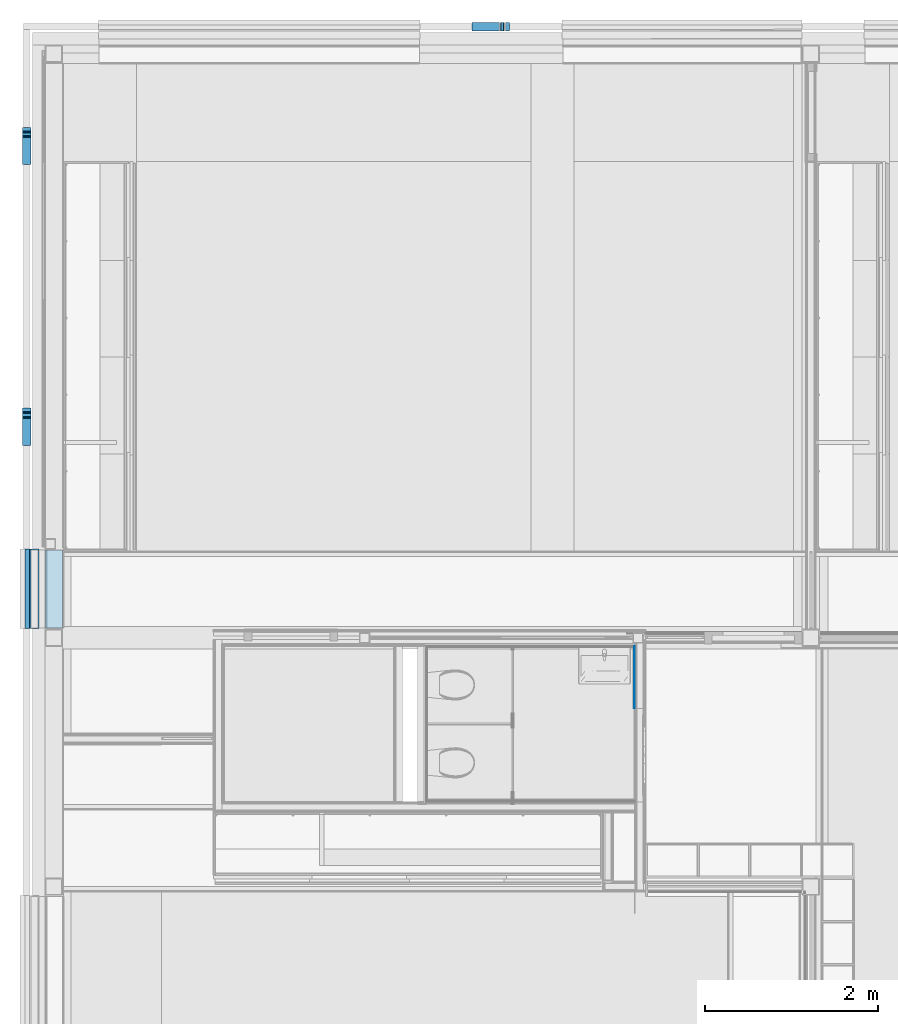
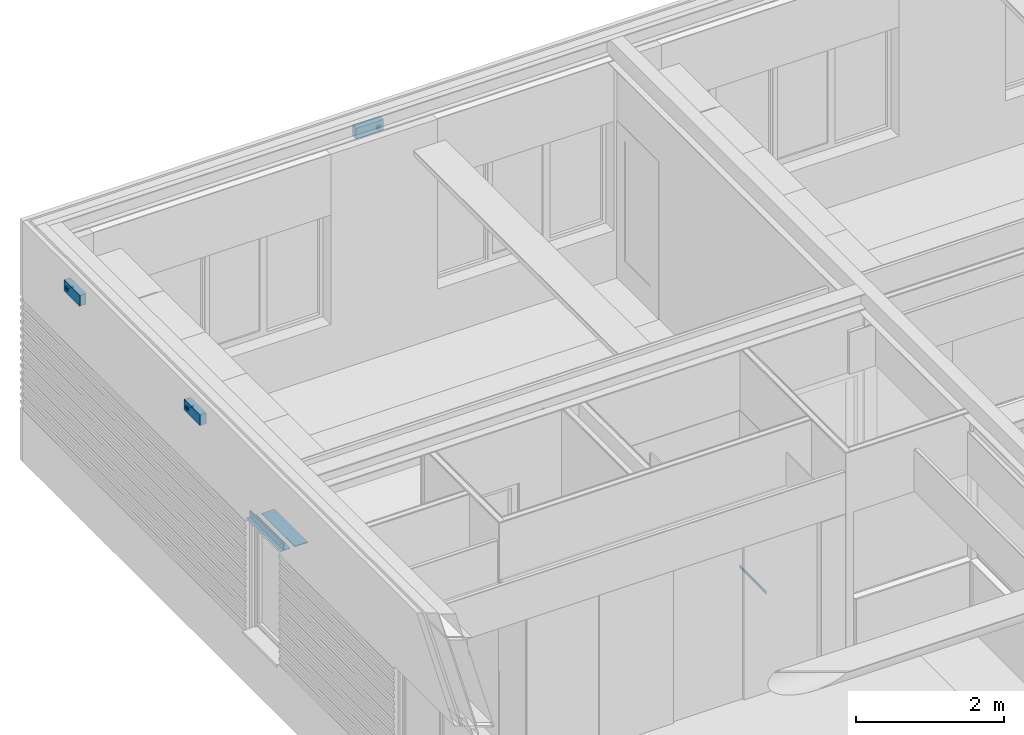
# One storey, part 99 of 137: 12 building element parts, 6 elements without a shape of their own.
"""IFC2X3 building model written with IfcOpenShell, lengths in millimetres."""

from ifc_helpers import new_model, entity, si_unit, converted_unit, derived_unit, money_unit, direction, frame, origin_with_axes, place, context, subcontext, project, spatial, faceted_brep, material, type_object, element, aggregate, save


model = new_model("IFC2X3")

# Units and contexts
model_context = context("Model", 3, precision=0.01, world=origin_with_axes(), true_north=direction((0.0, 1.0)))
body_context = subcontext(model_context, "Body", "Model", "MODEL_VIEW")
ifc_project = project(units=[si_unit("LENGTHUNIT", "METRE", prefix="MILLI"), si_unit("AREAUNIT", "SQUARE_METRE"), si_unit("VOLUMEUNIT", "CUBIC_METRE"), converted_unit("PLANEANGLEUNIT", "DEGREE", entity("IfcPlaneAngleMeasure", 0.0174532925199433), si_unit("PLANEANGLEUNIT", "RADIAN"), dimensions=[0, 0, 0, 0, 0, 0, 0]), money_unit("EUR"), converted_unit("TIMEUNIT", "Year", entity("IfcTimeMeasure", 31556926.0), si_unit("TIMEUNIT", "SECOND"), dimensions=[0, 0, 1, 0, 0, 0, 0]), si_unit("MASSUNIT", "GRAM", prefix="KILO"), si_unit("THERMODYNAMICTEMPERATUREUNIT", "DEGREE_CELSIUS"), si_unit("LUMINOUSINTENSITYUNIT", "LUMEN"), si_unit("ENERGYUNIT", "JOULE", prefix="MEGA"), derived_unit("THERMALCONDUCTANCEUNIT", [(si_unit("POWERUNIT", "WATT"), 1), (si_unit("LENGTHUNIT", "METRE"), -1), (si_unit("THERMODYNAMICTEMPERATUREUNIT", "KELVIN"), -1)]), derived_unit("SPECIFICHEATCAPACITYUNIT", [(si_unit("ENERGYUNIT", "JOULE"), 1), (si_unit("MASSUNIT", "GRAM", prefix="KILO"), -1), (si_unit("THERMODYNAMICTEMPERATUREUNIT", "KELVIN"), -1)]), derived_unit("MASSDENSITYUNIT", [(si_unit("MASSUNIT", "GRAM", prefix="KILO"), 1), (si_unit("VOLUMEUNIT", "CUBIC_METRE"), -1)])], contexts=[model_context])

# Site, building, storey
site_placement = place(None, origin_with_axes())
site = spatial("IfcSite", under=ifc_project, at=site_placement, Name="Site", CompositionType="ELEMENT")
building_placement = place(site_placement, origin_with_axes())
building = spatial("IfcBuilding", under=site, at=building_placement, Name="Naam gebouw", CompositionType="ELEMENT")
storey_placement = place(building_placement, frame((0.0, 0.0, 3960.0), z_axis=(0.0, 0.0, 1.0), x_axis=(1.0, 0.0, 0.0)))
storey = spatial("IfcBuildingStorey", under=building, at=storey_placement, Name="1e verdieping", CompositionType="ELEMENT", Elevation=3960.0)

# Beam, building element parts
beam_type_1 = type_object("IfcBeamType", Name="41 Latei/geveldrager 158 x 112", PredefinedType="BEAM")
beam_1_placement = place(storey_placement, frame((-179.9999999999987, 22429.99984707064, 2610.0), z_axis=(0.0, 0.0, 1.0), x_axis=(1.0, 0.0, 0.0)))
beam_1 = element("IfcBeam", 1, at=beam_1_placement, inside=storey, type_object=beam_type_1, Name="_Regenwaterafvoer-x", ObjectType="BEAM")
ifc_material_1 = material(Name="Metaal - Staal C")
building_element_part_1_placement = place(beam_1_placement, origin_with_axes())
building_element_part_1 = element("IfcBuildingElementPart", 2, at=building_element_part_1_placement, material=ifc_material_1, Name="Metaal - Staal C", context=body_context, shape_type="Brep", body=[
    faceted_brep([(-49.99999999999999, 920.0000000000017, 6.55651533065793e-07), (-49.99999999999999, 920.0000000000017, -3.000000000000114), (-49.99999999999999, 0.0, -3.000000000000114), (-49.99999999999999, 0.0, 6.55651533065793e-07), (-5.960468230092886e-08, 920.0000000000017, 6.55651533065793e-07), (-5.960468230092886e-08, 920.0000000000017, 99.3417707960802), (16.54654975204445, 920.0000000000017, 108.8949262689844), (18.04655007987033, 920.0000000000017, 106.2968498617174), (3.000000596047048, 920.0000000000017, 96.99999988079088), (3.000000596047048, 920.0000000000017, 6.55651533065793e-07), (3.000000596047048, 920.0000000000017, -3.000000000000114), (3.000000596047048, 0.0, -3.000000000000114), (3.000000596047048, 0.0, 6.55651533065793e-07), (3.000000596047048, 0.0, 96.99999988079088), (18.04655007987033, 0.0, 106.2968498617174), (16.54654975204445, 0.0, 108.8949262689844), (-5.960468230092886e-08, 0.0, 99.3417707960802), (-5.960468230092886e-08, 0.0, 6.55651533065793e-07)], [[[0, 1, 2, 3]], [[0, 4, 5, 6, 7, 8, 9, 10, 1]], [[1, 10, 11, 2]], [[3, 2, 11, 12, 13, 14, 15, 16, 17]], [[4, 0, 3, 17]], [[5, 4, 17, 16]], [[6, 5, 16, 15]], [[7, 6, 15, 14]], [[8, 7, 14, 13]], [[9, 8, 13, 12]], [[10, 9, 12, 11]]]),
])
building_element_part_2_placement = place(beam_1_placement, origin_with_axes())
building_element_part_2 = element("IfcBuildingElementPart", 3, at=building_element_part_2_placement, material=ifc_material_1, Name="Metaal - Staal C", context=body_context, shape_type="Brep", body=[
    faceted_brep([(3.000000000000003, 920.0000000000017, -3.000000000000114), (108.0, 920.0000000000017, -3.000000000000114), (108.0, 0.0, -3.000000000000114), (3.000000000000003, 0.0, -3.000000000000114), (3.000000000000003, 920.0000000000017, 0.0), (108.0, 920.0000000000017, 0.0), (108.0, 0.0, 0.0), (3.000000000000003, 0.0, 0.0)], [[[0, 1, 2, 3]], [[0, 4, 5, 1]], [[1, 5, 6, 2]], [[3, 2, 6, 7]], [[4, 0, 3, 7]], [[5, 4, 7, 6]]]),
])
aggregate(beam_1, [building_element_part_1, building_element_part_2])

beam_type_2 = type_object("IfcBeamType", Name="41 Nestkast zwaluw 430 x 175", PredefinedType="BEAM")
beam_2_placement = place(storey_placement, frame((4934.999999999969, 29435.0, 3410.000000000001), z_axis=(0.0, 0.0, 1.0), x_axis=(-1.0, 0.0, 0.0)))
beam_2 = element("IfcBeam", 4, at=beam_2_placement, inside=storey, type_object=beam_type_2, Name="_Regenwaterafvoer-x", ObjectType="BEAM")
ifc_material_2 = material(Name="Beton C")
building_element_part_3_placement = place(beam_2_placement, origin_with_axes())
building_element_part_3 = element("IfcBuildingElementPart", 5, at=building_element_part_3_placement, material=ifc_material_2, Name="Beton C", context=body_context, shape_type="Brep", body=[
    faceted_brep([(-429.9999999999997, 100.0000000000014, 0.0), (0.0, 100.0000000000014, 0.0), (0.0, 0.0, 0.0), (-429.9999999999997, 0.0, 0.0), (-429.9999999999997, 100.0000000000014, 174.9999999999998), (0.0, 100.0000000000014, 174.9999999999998), (-313.0448186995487, 100.0000000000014, 64.69266270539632), (-309.9999999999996, 100.0000000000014, 80.00000000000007), (-313.0448186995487, 100.0000000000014, 95.30733729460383), (-321.7157287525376, 100.0000000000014, 108.2842712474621), (-334.6926627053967, 100.0000000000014, 116.9551813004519), (-349.9999999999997, 100.0000000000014, 120.0000000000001), (-365.3073372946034, 100.0000000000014, 116.9551813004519), (-378.2842712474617, 100.0000000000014, 108.2842712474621), (-386.9551813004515, 100.0000000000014, 95.30733729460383), (-389.9999999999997, 100.0000000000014, 80.00000000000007), (-386.9551813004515, 100.0000000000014, 64.69266270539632), (-378.2842712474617, 100.0000000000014, 51.71572875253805), (-365.3073372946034, 100.0000000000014, 43.04481869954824), (-349.9999999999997, 100.0000000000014, 40.00000000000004), (-334.6926627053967, 100.0000000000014, 43.04481869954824), (-321.7157287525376, 100.0000000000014, 51.71572875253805), (0.0, 0.0, 174.9999999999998), (-429.9999999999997, 0.0, 174.9999999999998), (-313.0448186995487, 0.0, 64.69266270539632), (-321.7157287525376, 0.0, 51.71572875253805), (-334.6926627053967, 0.0, 43.04481869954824), (-349.9999999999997, 0.0, 40.00000000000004), (-365.3073372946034, 0.0, 43.04481869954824), (-378.2842712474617, 0.0, 51.71572875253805), (-386.9551813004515, 0.0, 64.69266270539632), (-389.9999999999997, 0.0, 80.00000000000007), (-386.9551813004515, 0.0, 95.30733729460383), (-378.2842712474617, 0.0, 108.2842712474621), (-365.3073372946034, 0.0, 116.9551813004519), (-349.9999999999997, 0.0, 120.0000000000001), (-334.6926627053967, 0.0, 116.9551813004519), (-321.7157287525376, 0.0, 108.2842712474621), (-313.0448186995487, 0.0, 95.30733729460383), (-309.9999999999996, 0.0, 80.00000000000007)], [[[0, 1, 2, 3]], [[0, 4, 5, 1], [6, 7, 8, 9, 10, 11, 12, 13, 14, 15, 16, 17, 18, 19, 20, 21]], [[1, 5, 22, 2]], [[3, 2, 22, 23], [24, 25, 26, 27, 28, 29, 30, 31, 32, 33, 34, 35, 36, 37, 38, 39]], [[4, 0, 3, 23]], [[5, 4, 23, 22]], [[7, 6, 24, 39]], [[8, 7, 39, 38]], [[9, 8, 38, 37]], [[10, 9, 37, 36]], [[11, 10, 36, 35]], [[12, 11, 35, 34]], [[13, 12, 34, 33]], [[14, 13, 33, 32]], [[15, 14, 32, 31]], [[16, 15, 31, 30]], [[17, 16, 30, 29]], [[18, 17, 29, 28]], [[19, 18, 28, 27]], [[20, 19, 27, 26]], [[21, 20, 26, 25]], [[6, 21, 25, 24]]]),
])
ifc_material_3 = material(Name="Beton gewapend C vloer")
building_element_part_4_placement = place(beam_2_placement, origin_with_axes())
building_element_part_4 = element("IfcBuildingElementPart", 6, at=building_element_part_4_placement, material=ifc_material_3, Name="Beton gewapend C vloer", context=body_context, shape_type="Brep", body=[
    faceted_brep([(-365.0000000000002, 100.0000000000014, 89.99999999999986), (-368.5355339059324, 100.0000000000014, 88.53553390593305), (-368.5355339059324, 0.0, 88.53553390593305), (-365.0000000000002, 0.0, 89.99999999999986), (-334.9999999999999, 100.0000000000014, 89.99999999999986), (-331.4644660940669, 100.0000000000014, 88.53553390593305), (-330.0000000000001, 100.0000000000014, 84.99999999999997), (-330.0000000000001, 100.0000000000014, 75.00000000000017), (-331.4644660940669, 100.0000000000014, 71.46446609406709), (-334.9999999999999, 100.0000000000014, 70.00000000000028), (-365.0000000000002, 100.0000000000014, 70.00000000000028), (-368.5355339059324, 100.0000000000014, 71.46446609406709), (-370.0000000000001, 100.0000000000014, 75.00000000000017), (-370.0000000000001, 100.0000000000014, 84.99999999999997), (-370.0000000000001, 0.0, 84.99999999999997), (-370.0000000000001, 0.0, 75.00000000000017), (-368.5355339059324, 0.0, 71.46446609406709), (-365.0000000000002, 0.0, 70.00000000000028), (-334.9999999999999, 0.0, 70.00000000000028), (-331.4644660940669, 0.0, 71.46446609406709), (-330.0000000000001, 0.0, 75.00000000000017), (-330.0000000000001, 0.0, 84.99999999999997), (-331.4644660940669, 0.0, 88.53553390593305), (-334.9999999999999, 0.0, 89.99999999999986)], [[[0, 1, 2, 3]], [[0, 4, 5, 6, 7, 8, 9, 10, 11, 12, 13, 1]], [[1, 13, 14, 2]], [[3, 2, 14, 15, 16, 17, 18, 19, 20, 21, 22, 23]], [[4, 0, 3, 23]], [[5, 4, 23, 22]], [[6, 5, 22, 21]], [[7, 6, 21, 20]], [[8, 7, 20, 19]], [[9, 8, 19, 18]], [[10, 9, 18, 17]], [[11, 10, 17, 16]], [[12, 11, 16, 15]], [[13, 12, 15, 14]]]),
])
aggregate(beam_2, [building_element_part_3, building_element_part_4])

beam_3_placement = place(storey_placement, frame((-159.9999999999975, 24549.99984707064, 3410.000000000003), z_axis=(0.0, 0.0, 1.0), x_axis=(0.0, 1.0, 0.0)))
beam_3 = element("IfcBeam", 7, at=beam_3_placement, inside=storey, type_object=beam_type_2, Name="_Regenwaterafvoer-x", ObjectType="BEAM")
ifc_material_4 = material(Name="Beton gewapend C")
building_element_part_5_placement = place(beam_3_placement, origin_with_axes())
building_element_part_5 = element("IfcBuildingElementPart", 8, at=building_element_part_5_placement, material=ifc_material_4, Name="Beton gewapend C", context=body_context, shape_type="Brep", body=[
    faceted_brep([(390.0000000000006, 100.0000000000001, 80.00000000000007), (386.9551813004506, 100.0000000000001, 95.30733729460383), (386.9551813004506, 0.0, 95.30733729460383), (390.0000000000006, 0.0, 80.00000000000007), (386.9551813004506, 100.0000000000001, 64.69266270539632), (378.2842712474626, 100.0000000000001, 51.71572875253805), (365.3073372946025, 100.0000000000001, 43.04481869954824), (350.0000000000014, 100.0000000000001, 40.00000000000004), (334.6926627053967, 100.0000000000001, 43.04481869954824), (321.7157287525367, 100.0000000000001, 51.71572875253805), (313.0448186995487, 100.0000000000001, 64.69266270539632), (309.9999999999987, 100.0000000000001, 80.00000000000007), (313.0448186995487, 100.0000000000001, 95.30733729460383), (321.7157287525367, 100.0000000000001, 108.2842712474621), (334.6926627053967, 100.0000000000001, 116.9551813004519), (350.0000000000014, 100.0000000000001, 120.0000000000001), (365.3073372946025, 100.0000000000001, 116.9551813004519), (378.2842712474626, 100.0000000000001, 108.2842712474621), (329.9999999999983, 100.0000000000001, 84.99999999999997), (329.9999999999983, 100.0000000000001, 75.00000000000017), (331.4644660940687, 100.0000000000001, 71.46446609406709), (335.0000000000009, 100.0000000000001, 70.00000000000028), (364.9999999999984, 100.0000000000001, 70.00000000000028), (368.5355339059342, 100.0000000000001, 71.46446609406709), (370.000000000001, 100.0000000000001, 75.00000000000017), (370.000000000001, 100.0000000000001, 84.99999999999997), (368.5355339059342, 100.0000000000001, 88.53553390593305), (364.9999999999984, 100.0000000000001, 89.99999999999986), (335.0000000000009, 100.0000000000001, 89.99999999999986), (331.4644660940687, 100.0000000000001, 88.53553390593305), (378.2842712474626, 0.0, 108.2842712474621), (365.3073372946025, 0.0, 116.9551813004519), (350.0000000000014, 0.0, 120.0000000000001), (334.6926627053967, 0.0, 116.9551813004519), (321.7157287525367, 0.0, 108.2842712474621), (313.0448186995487, 0.0, 95.30733729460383), (309.9999999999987, 0.0, 80.00000000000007), (313.0448186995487, 0.0, 64.69266270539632), (321.7157287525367, 0.0, 51.71572875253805), (334.6926627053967, 0.0, 43.04481869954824), (350.0000000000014, 0.0, 40.00000000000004), (365.3073372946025, 0.0, 43.04481869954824), (378.2842712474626, 0.0, 51.71572875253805), (386.9551813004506, 0.0, 64.69266270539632), (329.9999999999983, 0.0, 84.99999999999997), (331.4644660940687, 0.0, 88.53553390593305), (335.0000000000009, 0.0, 89.99999999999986), (364.9999999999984, 0.0, 89.99999999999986), (368.5355339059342, 0.0, 88.53553390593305), (370.000000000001, 0.0, 84.99999999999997), (370.000000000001, 0.0, 75.00000000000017), (368.5355339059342, 0.0, 71.46446609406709), (364.9999999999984, 0.0, 70.00000000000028), (335.0000000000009, 0.0, 70.00000000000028), (331.4644660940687, 0.0, 71.46446609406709), (329.9999999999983, 0.0, 75.00000000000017)], [[[0, 1, 2, 3]], [[0, 4, 5, 6, 7, 8, 9, 10, 11, 12, 13, 14, 15, 16, 17, 1], [18, 19, 20, 21, 22, 23, 24, 25, 26, 27, 28, 29]], [[1, 17, 30, 2]], [[3, 2, 30, 31, 32, 33, 34, 35, 36, 37, 38, 39, 40, 41, 42, 43], [44, 45, 46, 47, 48, 49, 50, 51, 52, 53, 54, 55]], [[4, 0, 3, 43]], [[5, 4, 43, 42]], [[6, 5, 42, 41]], [[7, 6, 41, 40]], [[8, 7, 40, 39]], [[9, 8, 39, 38]], [[10, 9, 38, 37]], [[11, 10, 37, 36]], [[12, 11, 36, 35]], [[13, 12, 35, 34]], [[14, 13, 34, 33]], [[15, 14, 33, 32]], [[16, 15, 32, 31]], [[17, 16, 31, 30]], [[19, 18, 44, 55]], [[20, 19, 55, 54]], [[21, 20, 54, 53]], [[22, 21, 53, 52]], [[23, 22, 52, 51]], [[24, 23, 51, 50]], [[25, 24, 50, 49]], [[26, 25, 49, 48]], [[27, 26, 48, 47]], [[28, 27, 47, 46]], [[29, 28, 46, 45]], [[18, 29, 45, 44]]]),
])
building_element_part_6_placement = place(beam_3_placement, origin_with_axes())
building_element_part_6 = element("IfcBuildingElementPart", 9, at=building_element_part_6_placement, material=ifc_material_3, Name="Beton gewapend C vloer", context=body_context, shape_type="Brep", body=[
    faceted_brep([(335.0000000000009, 100.0000000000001, 89.99999999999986), (331.4644660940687, 100.0000000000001, 88.53553390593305), (331.4644660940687, 0.0, 88.53553390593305), (335.0000000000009, 0.0, 89.99999999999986), (364.9999999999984, 100.0000000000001, 89.99999999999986), (368.5355339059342, 100.0000000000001, 88.53553390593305), (370.000000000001, 100.0000000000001, 84.99999999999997), (370.000000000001, 100.0000000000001, 75.00000000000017), (368.5355339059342, 100.0000000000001, 71.46446609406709), (364.9999999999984, 100.0000000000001, 70.00000000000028), (335.0000000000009, 100.0000000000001, 70.00000000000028), (331.4644660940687, 100.0000000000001, 71.46446609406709), (329.9999999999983, 100.0000000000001, 75.00000000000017), (329.9999999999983, 100.0000000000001, 84.99999999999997), (329.9999999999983, 0.0, 84.99999999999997), (329.9999999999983, 0.0, 75.00000000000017), (331.4644660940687, 0.0, 71.46446609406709), (335.0000000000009, 0.0, 70.00000000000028), (364.9999999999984, 0.0, 70.00000000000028), (368.5355339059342, 0.0, 71.46446609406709), (370.000000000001, 0.0, 75.00000000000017), (370.000000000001, 0.0, 84.99999999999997), (368.5355339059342, 0.0, 88.53553390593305), (364.9999999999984, 0.0, 89.99999999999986)], [[[0, 1, 2, 3]], [[0, 4, 5, 6, 7, 8, 9, 10, 11, 12, 13, 1]], [[1, 13, 14, 2]], [[3, 2, 14, 15, 16, 17, 18, 19, 20, 21, 22, 23]], [[4, 0, 3, 23]], [[5, 4, 23, 22]], [[6, 5, 22, 21]], [[7, 6, 21, 20]], [[8, 7, 20, 19]], [[9, 8, 19, 18]], [[10, 9, 18, 17]], [[11, 10, 17, 16]], [[12, 11, 16, 15]], [[13, 12, 15, 14]]]),
])
building_element_part_7_placement = place(beam_3_placement, origin_with_axes())
building_element_part_7 = element("IfcBuildingElementPart", 10, at=building_element_part_7_placement, material=ifc_material_2, Name="Beton C", context=body_context, shape_type="Brep", body=[
    faceted_brep([(429.9999999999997, 100.0000000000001, 174.9999999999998), (0.0, 100.0000000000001, 174.9999999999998), (0.0, 0.0, 174.9999999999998), (429.9999999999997, 0.0, 174.9999999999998), (429.9999999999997, 100.0000000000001, 0.0), (0.0, 100.0000000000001, 0.0), (309.9999999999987, 100.0000000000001, 80.00000000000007), (313.0448186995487, 100.0000000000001, 64.69266270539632), (321.7157287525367, 100.0000000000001, 51.71572875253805), (334.6926627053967, 100.0000000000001, 43.04481869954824), (350.0000000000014, 100.0000000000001, 40.00000000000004), (365.3073372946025, 100.0000000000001, 43.04481869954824), (378.2842712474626, 100.0000000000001, 51.71572875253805), (386.9551813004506, 100.0000000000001, 64.69266270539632), (390.0000000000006, 100.0000000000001, 80.00000000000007), (386.9551813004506, 100.0000000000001, 95.30733729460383), (378.2842712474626, 100.0000000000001, 108.2842712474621), (365.3073372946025, 100.0000000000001, 116.9551813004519), (350.0000000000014, 100.0000000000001, 120.0000000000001), (334.6926627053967, 100.0000000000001, 116.9551813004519), (321.7157287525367, 100.0000000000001, 108.2842712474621), (313.0448186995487, 100.0000000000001, 95.30733729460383), (0.0, 0.0, 0.0), (429.9999999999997, 0.0, 0.0), (309.9999999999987, 0.0, 80.00000000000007), (313.0448186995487, 0.0, 95.30733729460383), (321.7157287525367, 0.0, 108.2842712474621), (334.6926627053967, 0.0, 116.9551813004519), (350.0000000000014, 0.0, 120.0000000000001), (365.3073372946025, 0.0, 116.9551813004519), (378.2842712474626, 0.0, 108.2842712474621), (386.9551813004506, 0.0, 95.30733729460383), (390.0000000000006, 0.0, 80.00000000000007), (386.9551813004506, 0.0, 64.69266270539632), (378.2842712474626, 0.0, 51.71572875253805), (365.3073372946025, 0.0, 43.04481869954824), (350.0000000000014, 0.0, 40.00000000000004), (334.6926627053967, 0.0, 43.04481869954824), (321.7157287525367, 0.0, 51.71572875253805), (313.0448186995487, 0.0, 64.69266270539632)], [[[0, 1, 2, 3]], [[0, 4, 5, 1], [6, 7, 8, 9, 10, 11, 12, 13, 14, 15, 16, 17, 18, 19, 20, 21]], [[1, 5, 22, 2]], [[3, 2, 22, 23], [24, 25, 26, 27, 28, 29, 30, 31, 32, 33, 34, 35, 36, 37, 38, 39]], [[4, 0, 3, 23]], [[5, 4, 23, 22]], [[7, 6, 24, 39]], [[8, 7, 39, 38]], [[9, 8, 38, 37]], [[10, 9, 37, 36]], [[11, 10, 36, 35]], [[12, 11, 35, 34]], [[13, 12, 34, 33]], [[14, 13, 33, 32]], [[15, 14, 32, 31]], [[16, 15, 31, 30]], [[17, 16, 30, 29]], [[18, 17, 29, 28]], [[19, 18, 28, 27]], [[20, 19, 27, 26]], [[21, 20, 26, 25]], [[6, 21, 25, 24]]]),
])
aggregate(beam_3, [building_element_part_5, building_element_part_6, building_element_part_7])

beam_4_placement = place(storey_placement, frame((-159.9999999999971, 27795.0, 3410.000000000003), z_axis=(0.0, 0.0, 1.0), x_axis=(0.0, 1.0, 0.0)))
beam_4 = element("IfcBeam", 11, at=beam_4_placement, inside=storey, type_object=beam_type_2, Name="_Regenwaterafvoer-x", ObjectType="BEAM")
building_element_part_8_placement = place(beam_4_placement, origin_with_axes())
building_element_part_8 = element("IfcBuildingElementPart", 12, at=building_element_part_8_placement, material=ifc_material_2, Name="Beton C", context=body_context, shape_type="Brep", body=[
    faceted_brep([(429.9999999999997, 100.0, 174.9999999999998), (0.0, 100.0, 174.9999999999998), (0.0, 0.0, 174.9999999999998), (429.9999999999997, 0.0, 174.9999999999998), (429.9999999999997, 100.0, 0.0), (0.0, 100.0, 0.0), (309.9999999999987, 100.0, 80.00000000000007), (313.0448186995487, 100.0, 64.69266270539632), (321.7157287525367, 100.0, 51.71572875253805), (334.6926627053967, 100.0, 43.04481869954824), (350.0000000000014, 100.0, 40.00000000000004), (365.3073372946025, 100.0, 43.04481869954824), (378.2842712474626, 100.0, 51.71572875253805), (386.9551813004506, 99.99999999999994, 64.69266270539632), (390.0000000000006, 99.99999999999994, 80.00000000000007), (386.9551813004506, 99.99999999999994, 95.30733729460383), (378.2842712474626, 100.0, 108.2842712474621), (365.3073372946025, 100.0, 116.9551813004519), (350.0000000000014, 100.0, 120.0000000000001), (334.6926627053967, 100.0, 116.9551813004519), (321.7157287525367, 100.0, 108.2842712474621), (313.0448186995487, 100.0, 95.30733729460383), (0.0, 0.0, 0.0), (429.9999999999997, 0.0, 0.0), (309.9999999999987, 0.0, 80.00000000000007), (313.0448186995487, 0.0, 95.30733729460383), (321.7157287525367, 0.0, 108.2842712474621), (334.6926627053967, 0.0, 116.9551813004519), (350.0000000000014, 0.0, 120.0000000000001), (365.3073372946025, 0.0, 116.9551813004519), (378.2842712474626, 0.0, 108.2842712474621), (386.9551813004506, 0.0, 95.30733729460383), (390.0000000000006, 0.0, 80.00000000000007), (386.9551813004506, 0.0, 64.69266270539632), (378.2842712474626, 0.0, 51.71572875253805), (365.3073372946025, 0.0, 43.04481869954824), (350.0000000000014, 0.0, 40.00000000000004), (334.6926627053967, 0.0, 43.04481869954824), (321.7157287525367, 0.0, 51.71572875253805), (313.0448186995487, 0.0, 64.69266270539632)], [[[0, 1, 2, 3]], [[0, 4, 5, 1], [6, 7, 8, 9, 10, 11, 12, 13, 14, 15, 16, 17, 18, 19, 20, 21]], [[1, 5, 22, 2]], [[3, 2, 22, 23], [24, 25, 26, 27, 28, 29, 30, 31, 32, 33, 34, 35, 36, 37, 38, 39]], [[4, 0, 3, 23]], [[5, 4, 23, 22]], [[7, 6, 24, 39]], [[8, 7, 39, 38]], [[9, 8, 38, 37]], [[10, 9, 37, 36]], [[11, 10, 36, 35]], [[12, 11, 35, 34]], [[13, 12, 34, 33]], [[14, 13, 33, 32]], [[15, 14, 32, 31]], [[16, 15, 31, 30]], [[17, 16, 30, 29]], [[18, 17, 29, 28]], [[19, 18, 28, 27]], [[20, 19, 27, 26]], [[21, 20, 26, 25]], [[6, 21, 25, 24]]]),
])
building_element_part_9_placement = place(beam_4_placement, origin_with_axes())
building_element_part_9 = element("IfcBuildingElementPart", 13, at=building_element_part_9_placement, material=ifc_material_4, Name="Beton gewapend C", context=body_context, shape_type="Brep", body=[
    faceted_brep([(390.0000000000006, 99.99999999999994, 80.00000000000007), (386.9551813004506, 99.99999999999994, 95.30733729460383), (386.9551813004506, 0.0, 95.30733729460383), (390.0000000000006, 0.0, 80.00000000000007), (386.9551813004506, 99.99999999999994, 64.69266270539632), (378.2842712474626, 100.0, 51.71572875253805), (365.3073372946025, 100.0, 43.04481869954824), (350.0000000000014, 100.0, 40.00000000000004), (334.6926627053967, 100.0, 43.04481869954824), (321.7157287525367, 100.0, 51.71572875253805), (313.0448186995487, 100.0, 64.69266270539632), (309.9999999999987, 100.0, 80.00000000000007), (313.0448186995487, 100.0, 95.30733729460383), (321.7157287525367, 100.0, 108.2842712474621), (334.6926627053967, 100.0, 116.9551813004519), (350.0000000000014, 100.0, 120.0000000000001), (365.3073372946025, 100.0, 116.9551813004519), (378.2842712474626, 100.0, 108.2842712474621), (329.9999999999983, 100.0, 84.99999999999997), (329.9999999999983, 100.0, 75.00000000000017), (331.4644660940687, 100.0, 71.46446609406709), (335.0000000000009, 100.0, 70.00000000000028), (364.9999999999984, 99.99999999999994, 70.00000000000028), (368.5355339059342, 100.0, 71.46446609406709), (370.000000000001, 100.0, 75.00000000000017), (370.000000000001, 100.0, 84.99999999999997), (368.5355339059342, 100.0, 88.53553390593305), (364.9999999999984, 99.99999999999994, 89.99999999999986), (335.0000000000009, 100.0, 89.99999999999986), (331.4644660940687, 100.0, 88.53553390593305), (378.2842712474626, 0.0, 108.2842712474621), (365.3073372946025, 0.0, 116.9551813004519), (350.0000000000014, 0.0, 120.0000000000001), (334.6926627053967, 0.0, 116.9551813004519), (321.7157287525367, 0.0, 108.2842712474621), (313.0448186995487, 0.0, 95.30733729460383), (309.9999999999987, 0.0, 80.00000000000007), (313.0448186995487, 0.0, 64.69266270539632), (321.7157287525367, 0.0, 51.71572875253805), (334.6926627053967, 0.0, 43.04481869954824), (350.0000000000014, 0.0, 40.00000000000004), (365.3073372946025, 0.0, 43.04481869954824), (378.2842712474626, 0.0, 51.71572875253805), (386.9551813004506, 0.0, 64.69266270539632), (329.9999999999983, 0.0, 84.99999999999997), (331.4644660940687, 0.0, 88.53553390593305), (335.0000000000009, 0.0, 89.99999999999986), (364.9999999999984, 0.0, 89.99999999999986), (368.5355339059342, 0.0, 88.53553390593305), (370.000000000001, 0.0, 84.99999999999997), (370.000000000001, 0.0, 75.00000000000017), (368.5355339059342, 0.0, 71.46446609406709), (364.9999999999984, 0.0, 70.00000000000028), (335.0000000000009, 0.0, 70.00000000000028), (331.4644660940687, 0.0, 71.46446609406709), (329.9999999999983, 0.0, 75.00000000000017)], [[[0, 1, 2, 3]], [[0, 4, 5, 6, 7, 8, 9, 10, 11, 12, 13, 14, 15, 16, 17, 1], [18, 19, 20, 21, 22, 23, 24, 25, 26, 27, 28, 29]], [[1, 17, 30, 2]], [[3, 2, 30, 31, 32, 33, 34, 35, 36, 37, 38, 39, 40, 41, 42, 43], [44, 45, 46, 47, 48, 49, 50, 51, 52, 53, 54, 55]], [[4, 0, 3, 43]], [[5, 4, 43, 42]], [[6, 5, 42, 41]], [[7, 6, 41, 40]], [[8, 7, 40, 39]], [[9, 8, 39, 38]], [[10, 9, 38, 37]], [[11, 10, 37, 36]], [[12, 11, 36, 35]], [[13, 12, 35, 34]], [[14, 13, 34, 33]], [[15, 14, 33, 32]], [[16, 15, 32, 31]], [[17, 16, 31, 30]], [[19, 18, 44, 55]], [[20, 19, 55, 54]], [[21, 20, 54, 53]], [[22, 21, 53, 52]], [[23, 22, 52, 51]], [[24, 23, 51, 50]], [[25, 24, 50, 49]], [[26, 25, 49, 48]], [[27, 26, 48, 47]], [[28, 27, 47, 46]], [[29, 28, 46, 45]], [[18, 29, 45, 44]]]),
])
building_element_part_10_placement = place(beam_4_placement, origin_with_axes())
building_element_part_10 = element("IfcBuildingElementPart", 14, at=building_element_part_10_placement, material=ifc_material_3, Name="Beton gewapend C vloer", context=body_context, shape_type="Brep", body=[
    faceted_brep([(335.0000000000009, 100.0, 89.99999999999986), (331.4644660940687, 100.0, 88.53553390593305), (331.4644660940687, 0.0, 88.53553390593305), (335.0000000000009, 0.0, 89.99999999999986), (364.9999999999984, 99.99999999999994, 89.99999999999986), (368.5355339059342, 100.0, 88.53553390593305), (370.000000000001, 100.0, 84.99999999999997), (370.000000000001, 100.0, 75.00000000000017), (368.5355339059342, 100.0, 71.46446609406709), (364.9999999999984, 99.99999999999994, 70.00000000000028), (335.0000000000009, 100.0, 70.00000000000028), (331.4644660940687, 100.0, 71.46446609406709), (329.9999999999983, 100.0, 75.00000000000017), (329.9999999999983, 100.0, 84.99999999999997), (329.9999999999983, 0.0, 84.99999999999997), (329.9999999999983, 0.0, 75.00000000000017), (331.4644660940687, 0.0, 71.46446609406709), (335.0000000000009, 0.0, 70.00000000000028), (364.9999999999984, 0.0, 70.00000000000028), (368.5355339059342, 0.0, 71.46446609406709), (370.000000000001, 0.0, 75.00000000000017), (370.000000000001, 0.0, 84.99999999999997), (368.5355339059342, 0.0, 88.53553390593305), (364.9999999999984, 0.0, 89.99999999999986)], [[[0, 1, 2, 3]], [[0, 4, 5, 6, 7, 8, 9, 10, 11, 12, 13, 1]], [[1, 13, 14, 2]], [[3, 2, 14, 15, 16, 17, 18, 19, 20, 21, 22, 23]], [[4, 0, 3, 23]], [[5, 4, 23, 22]], [[6, 5, 22, 21]], [[7, 6, 21, 20]], [[8, 7, 20, 19]], [[9, 8, 19, 18]], [[10, 9, 18, 17]], [[11, 10, 17, 16]], [[12, 11, 16, 15]], [[13, 12, 15, 14]]]),
])
aggregate(beam_4, [building_element_part_8, building_element_part_9, building_element_part_10])

# Proxy, building element part
building_element_proxy_type = type_object("IfcBuildingElementProxyType", Name="42 Tegelwerk 2600+ 12 x 2600", PredefinedType="NOTDEFINED")
proxy_placement = place(storey_placement, frame((6795.000000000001, 21509.97621853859, 0.0), z_axis=(0.0, 0.0, 1.0), x_axis=(0.0, 1.0, 0.0)))
proxy = element("IfcBuildingElementProxy", 15, at=proxy_placement, inside=storey, type_object=building_element_proxy_type, Name="_Wand-x")
ifc_material_5 = material(Name="48 vloeivloer Bolidt")
building_element_part_11_placement = place(proxy_placement, origin_with_axes())
building_element_part_11 = element("IfcBuildingElementPart", 16, at=building_element_part_11_placement, material=ifc_material_5, Name="48 vloeivloer Bolidt", context=body_context, shape_type="Brep", body=[
    faceted_brep([(720.0000029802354, -19.99998360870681, 0.0), (720.0000029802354, -19.99998360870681, 50.00000596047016), (0.0, -19.99998360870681, 50.00000596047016), (0.0, -19.99998360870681, 0.0), (720.0000029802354, -14.99999850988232, 0.0), (720.0000029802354, -14.99999850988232, 50.00000596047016), (0.0, -14.99999850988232, 50.00000596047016), (0.0, -14.99999850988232, 0.0)], [[[0, 1, 2, 3]], [[1, 0, 4, 5]], [[1, 5, 6, 2]], [[6, 7, 3, 2]], [[4, 0, 3, 7]], [[5, 4, 7, 6]]]),
])
aggregate(proxy, [building_element_part_11])

# Beam, building element part
beam_type_3 = type_object("IfcBeamType", Name="31 HSB boven kozijnen 214 x 1000", PredefinedType="BEAM")
beam_5_placement = place(storey_placement, frame((214.0000000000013, 22439.99984707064, 2600.000000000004), z_axis=(0.0, 0.0, 1.0), x_axis=(1.0, 0.0, 0.0)))
beam_5 = element("IfcBeam", 17, at=beam_5_placement, inside=storey, type_object=beam_type_3, Name="28_Balk-x", ObjectType="BEAM")
ifc_material_6 = material(Name="Gipsplaat")
building_element_part_12_placement = place(beam_5_placement, origin_with_axes())
building_element_part_12 = element("IfcBuildingElementPart", 18, at=building_element_part_12_placement, material=ifc_material_6, Name="Gipsplaat", context=body_context, shape_type="Brep", body=[
    faceted_brep([(-214.0000025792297, 899.9999999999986, 12.00000596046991), (-214.0000025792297, 899.9999999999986, 0.0), (-214.0000025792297, 0.0, 0.0), (-214.0000025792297, 0.0, 12.00000596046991), (-11.99999661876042, 899.9999999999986, 12.00000596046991), (-11.99999661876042, 899.9999999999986, 0.0), (-11.99999661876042, 0.0, 0.0), (-11.99999661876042, 0.0, 12.00000596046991)], [[[0, 1, 2, 3]], [[0, 4, 5, 1]], [[1, 5, 6, 2]], [[3, 2, 6, 7]], [[4, 0, 3, 7]], [[5, 4, 7, 6]]]),
])
aggregate(beam_5, [building_element_part_12])

save(model, "model.ifc")
